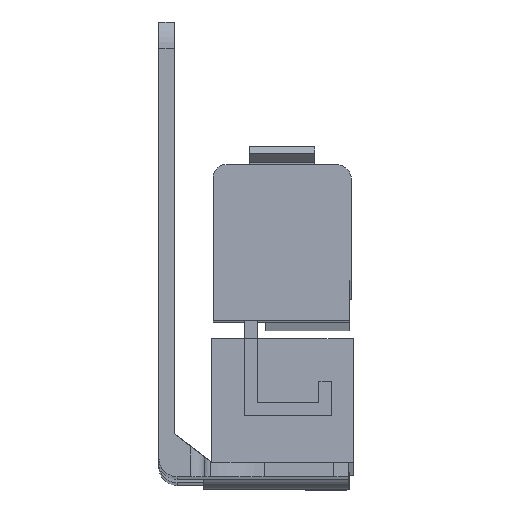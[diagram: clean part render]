
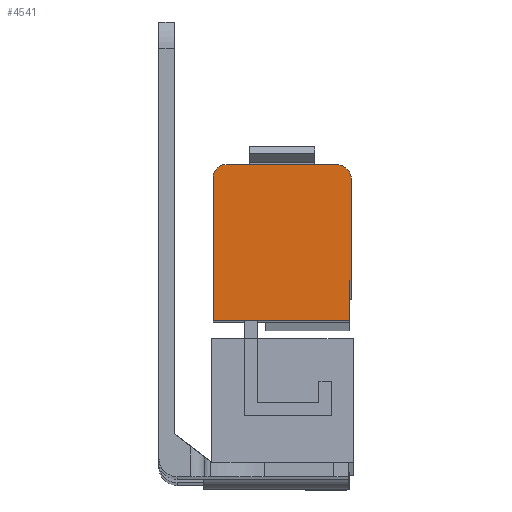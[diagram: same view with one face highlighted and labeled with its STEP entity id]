
A CAD part, front view. The second image highlights one B-rep face of the part: STEP entity #4541.
In plain terms, the highlighted planar face has unit normal (0, -1, 0.005).
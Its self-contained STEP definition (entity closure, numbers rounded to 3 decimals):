
#466 = AXIS2_PLACEMENT_3D ( 'NONE', #1397, #1398, #1399 ) ;
#495 = AXIS2_PLACEMENT_3D ( 'NONE', #1704, #1705, #1706 ) ;
#496 = AXIS2_PLACEMENT_3D ( 'NONE', #1709, #1710, #1711 ) ;
#855 = CARTESIAN_POINT ( 'NONE',  ( 26.5, -21.758, -20.678 ) ) ;
#856 = CARTESIAN_POINT ( 'NONE',  ( 9.25, -21.674, -4.678 ) ) ;
#858 = CARTESIAN_POINT ( 'NONE',  ( 24.45, -21.674, -4.678 ) ) ;
#859 = CARTESIAN_POINT ( 'NONE',  ( 26.5, -21.685, -6.728 ) ) ;
#861 = CARTESIAN_POINT ( 'NONE',  ( 26.25, -21.787, -26.178 ) ) ;
#869 = CARTESIAN_POINT ( 'NONE',  ( 7.5, -21.683, -6.428 ) ) ;
#872 = CARTESIAN_POINT ( 'NONE',  ( 26.25, -21.758, -20.678 ) ) ;
#873 = CARTESIAN_POINT ( 'NONE',  ( 7.5, -21.787, -26.178 ) ) ;
#1396 = PLANE ( 'NONE',  #466 ) ;
#1397 = CARTESIAN_POINT ( 'NONE',  ( 9.25, -21.683, -6.428 ) ) ;
#1398 = DIRECTION ( 'NONE',  ( 0., -1., 0.005 ) ) ;
#1399 = DIRECTION ( 'NONE',  ( 0., -0.005, -1. ) ) ;
#1690 = CARTESIAN_POINT ( 'NONE',  ( 9.25, -21.674, -4.678 ) ) ;
#1691 = DIRECTION ( 'NONE',  ( -1., 0., 0. ) ) ;
#1700 = CARTESIAN_POINT ( 'NONE',  ( 26.5, -21.685, -6.728 ) ) ;
#1701 = DIRECTION ( 'NONE',  ( 0., 0.005, 1. ) ) ;
#1704 = CARTESIAN_POINT ( 'NONE',  ( 24.45, -21.685, -6.728 ) ) ;
#1705 = DIRECTION ( 'NONE',  ( 0., -1., 0.005 ) ) ;
#1706 = DIRECTION ( 'NONE',  ( 0., 0.005, 1. ) ) ;
#1709 = CARTESIAN_POINT ( 'NONE',  ( 9.25, -21.683, -6.428 ) ) ;
#1710 = DIRECTION ( 'NONE',  ( 0., -1., 0.005 ) ) ;
#1711 = DIRECTION ( 'NONE',  ( 0., -0.005, -1. ) ) ;
#1718 = CARTESIAN_POINT ( 'NONE',  ( 7.5, -21.683, -6.428 ) ) ;
#1719 = DIRECTION ( 'NONE',  ( 0., -0.005, -1. ) ) ;
#1720 = CARTESIAN_POINT ( 'NONE',  ( 7.5, -21.758, -20.678 ) ) ;
#1721 = DIRECTION ( 'NONE',  ( 1., 0., 0. ) ) ;
#1726 = CARTESIAN_POINT ( 'NONE',  ( 26.25, -21.787, -26.178 ) ) ;
#1727 = DIRECTION ( 'NONE',  ( 1., 0., 0. ) ) ;
#1728 = CARTESIAN_POINT ( 'NONE',  ( 26.25, -21.787, -26.178 ) ) ;
#1729 = DIRECTION ( 'NONE',  ( 0., 0.005, 1. ) ) ;
#1952 = LINE ( 'NONE', #1690, #1953 ) ;
#1953 = VECTOR ( 'NONE', #1691, 1000. ) ;
#1962 = LINE ( 'NONE', #1700, #1963 ) ;
#1963 = VECTOR ( 'NONE', #1701, 1000. ) ;
#1967 = CIRCLE ( 'NONE', #495, 2.05 ) ;
#1970 = CIRCLE ( 'NONE', #496, 1.75 ) ;
#1976 = LINE ( 'NONE', #1718, #1977 ) ;
#1977 = VECTOR ( 'NONE', #1719, 1000. ) ;
#1978 = LINE ( 'NONE', #1720, #1979 ) ;
#1979 = VECTOR ( 'NONE', #1721, 1000. ) ;
#1984 = LINE ( 'NONE', #1726, #1985 ) ;
#1985 = VECTOR ( 'NONE', #1727, 1000. ) ;
#1986 = LINE ( 'NONE', #1728, #1987 ) ;
#1987 = VECTOR ( 'NONE', #1729, 1000. ) ;
#2417 = EDGE_LOOP ( 'NONE', ( #3413, #3414, #3415, #3416, #3417, #3418, #3419, #3420 ) ) ;
#2851 = VERTEX_POINT ( 'NONE', #855 ) ;
#2852 = VERTEX_POINT ( 'NONE', #856 ) ;
#2854 = VERTEX_POINT ( 'NONE', #858 ) ;
#2855 = VERTEX_POINT ( 'NONE', #859 ) ;
#2857 = VERTEX_POINT ( 'NONE', #861 ) ;
#2865 = VERTEX_POINT ( 'NONE', #869 ) ;
#2868 = VERTEX_POINT ( 'NONE', #872 ) ;
#2869 = VERTEX_POINT ( 'NONE', #873 ) ;
#3413 = ORIENTED_EDGE ( 'NONE', *, *, #4697, .T. ) ;
#3414 = ORIENTED_EDGE ( 'NONE', *, *, #4699, .T. ) ;
#3415 = ORIENTED_EDGE ( 'NONE', *, *, #4692, .T. ) ;
#3416 = ORIENTED_EDGE ( 'NONE', *, *, #4701, .T. ) ;
#3417 = ORIENTED_EDGE ( 'NONE', *, *, #4705, .T. ) ;
#3418 = ORIENTED_EDGE ( 'NONE', *, *, #4709, .T. ) ;
#3419 = ORIENTED_EDGE ( 'NONE', *, *, #4710, .T. ) ;
#3420 = ORIENTED_EDGE ( 'NONE', *, *, #4706, .T. ) ;
#4397 = FACE_OUTER_BOUND ( 'NONE', #2417, .T. ) ;
#4541 = ADVANCED_FACE ( 'NONE', ( #4397 ), #1396, .T. ) ;
#4692 = EDGE_CURVE ( 'NONE', #2854, #2852, #1952, .T. ) ;
#4697 = EDGE_CURVE ( 'NONE', #2851, #2855, #1962, .T. ) ;
#4699 = EDGE_CURVE ( 'NONE', #2855, #2854, #1967, .T. ) ;
#4701 = EDGE_CURVE ( 'NONE', #2852, #2865, #1970, .T. ) ;
#4705 = EDGE_CURVE ( 'NONE', #2865, #2869, #1976, .T. ) ;
#4706 = EDGE_CURVE ( 'NONE', #2868, #2851, #1978, .T. ) ;
#4709 = EDGE_CURVE ( 'NONE', #2869, #2857, #1984, .T. ) ;
#4710 = EDGE_CURVE ( 'NONE', #2857, #2868, #1986, .T. ) ;
